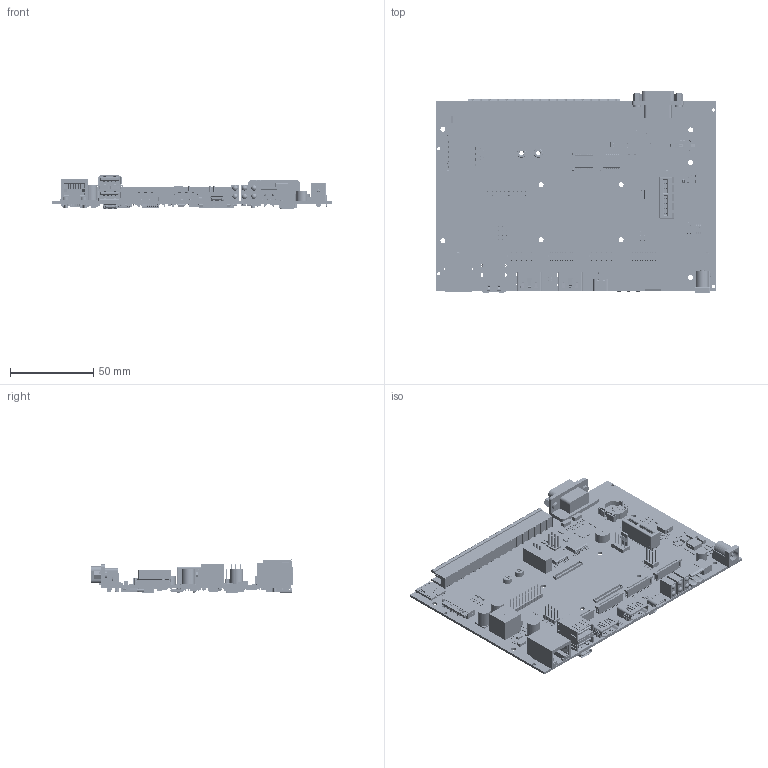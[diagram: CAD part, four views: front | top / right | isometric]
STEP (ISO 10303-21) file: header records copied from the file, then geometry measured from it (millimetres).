
FILE_DESCRIPTION((''),'2;1');
FILE_NAME('COMPUTE_MODULE_4_POE_4G_BOARD_ASM','2026-02-04T09:57:34',('ag'),(''),'CREO PARAMETRIC BY PTC INC, 2021063','CREO PARAMETRIC BY PTC INC, 2021063','');
FILE_SCHEMA(('CONFIG_CONTROL_DESIGN','SHAPE_APPEARANCE_LAYERS_GROUPS'));
Products named in the file (526): BOARD; EXTRUDED-42734; 915646512_ASM; U2_ASM; EXTRUDED-43153; 901757104_ASM; EXTRUDED-43525; 901756976_ASM; U7_ASM; EXTRUDED-43953; 912692480_ASM; EXTRUDED-44330; 912711040_ASM; R85_ASM; R70_ASM; R65_ASM; R63_ASM; EXTRUDED-44871; 783228896_ASM; EXTRUDED-45248; 783224672_ASM; R62_ASM; USER_LIBRARY-06030; L3_ASM; C68_ASM; EXTRUDED-73738; 901751344_ASM; EXTRUDED-74110; 901751216_ASM; C66_ASM; C65_ASM; C64_ASM; EXTRUDED-74610; 901753136_ASM; EXTRUDED-74982; 901753008_ASM; C63_ASM; C62_ASM; EXTRUDED-75428; 901758768_ASM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
Assembly tree (1004 placements, depth 4):
  COMPUTE_MODULE_4_POE_4G_BOARD_ASM
    BOARD
    U2_ASM
      915646512_ASM
        EXTRUDED-42734
    U7_ASM
      901757104_ASM
        EXTRUDED-43153
      901756976_ASM  x6
        EXTRUDED-43525
    R85_ASM
      912692480_ASM  x2
        EXTRUDED-43953
      912711040_ASM
        EXTRUDED-44330
    R70_ASM
      912692480_ASM  x2
        EXTRUDED-43953
      912711040_ASM
        EXTRUDED-44330
    R65_ASM
      912692480_ASM  x2
        EXTRUDED-43953
      912711040_ASM
        EXTRUDED-44330
    R63_ASM
      912692480_ASM  x2
        EXTRUDED-43953
      912711040_ASM
        EXTRUDED-44330
    R62_ASM
      783228896_ASM  x2
        EXTRUDED-44871
      783224672_ASM
        EXTRUDED-45248
    L3_ASM
      USER_LIBRARY-06030
    C68_ASM
      783228896_ASM  x2
        EXTRUDED-44871
      783224672_ASM
        EXTRUDED-45248
    C66_ASM
      901751344_ASM
        EXTRUDED-73738
      901751216_ASM  x2
        EXTRUDED-74110
    C65_ASM
      912692480_ASM  x2
        EXTRUDED-43953
      912711040_ASM
        EXTRUDED-44330
    C64_ASM
      912692480_ASM  x2
        EXTRUDED-43953
      912711040_ASM
        EXTRUDED-44330
    C63_ASM
      901753136_ASM
        EXTRUDED-74610
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Bounding box: 167.6 x 121.34 x 20.75 mm (x, y, z)
Volume: 59624.1 mm3; surface area: 84799.5 mm2
Topology: 626 solids, 698 shells, 25530 faces, 65109 edges, 40246 vertices
Faces by surface type: plane 16669, cylinder 6490, sphere 1388, extrusion 797, cone 102, bspline 71, torus 13
Entity records: 426286 total; most frequent: CARTESIAN_POINT 77015, DIRECTION 56434, ORIENTED_EDGE 54892, EDGE_CURVE 27463, VECTOR 21918, LINE 21667, PRESENTATION_STYLE_ASSIGNMENT 20396, STYLED_ITEM 18358
